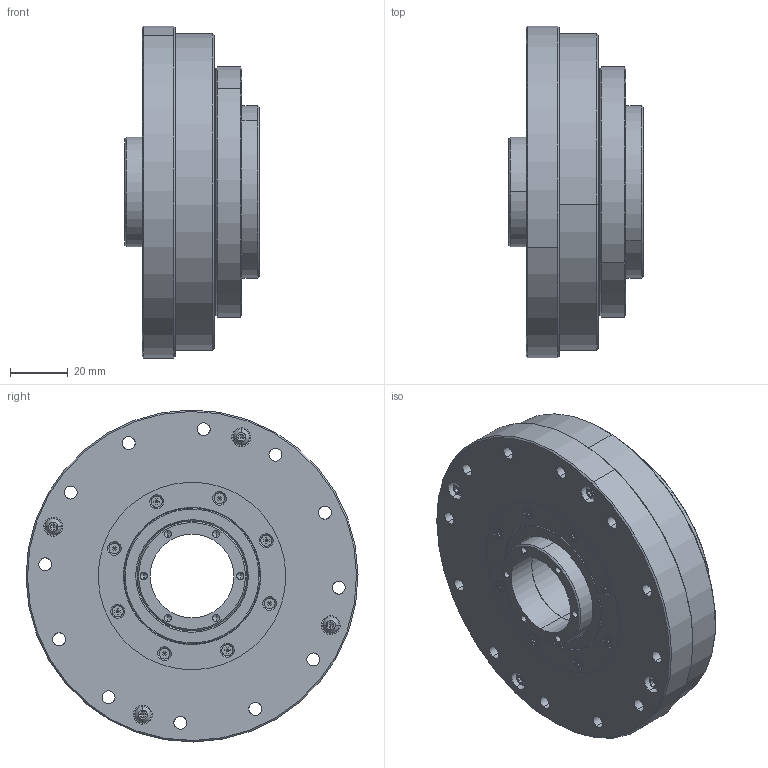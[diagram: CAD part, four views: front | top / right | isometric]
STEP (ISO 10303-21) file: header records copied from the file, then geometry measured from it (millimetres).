
FILE_DESCRIPTION (( 'STEP AP203' ), '1' );
FILE_NAME ('LHD-25-XXX-C-III.STEP', '2016-08-27T01:07:49', ( 'Windows 蚚誧' ), ( 'Users' ), 'SwSTEP 2.0', 'SolidWorks 2013', '' );
FILE_SCHEMA (( 'CONFIG_CONTROL_DESIGN' ));
Length unit declared in the file: millimetre
Products named in the file (20): LHD-25-XXX-P04-III; 坋趼羞麥芛蹟隊M2 x 4_ISO 7046-1 - M2 x 4 - Z --- 4N; RZC-25悵厥殤; LHD-25-XXX-P02-III; 15Z-38475; 柔性轴承RZC-25; 15Z-84945; DB-25-III-2; 囀鞠褒攫芛蹟隊M3X8_GB_SOCKET_TYPE7 M3X6-N; 6808zz; 内六角圆柱头螺钉M3 x 6_内六角圆柱头螺钉M3 x 6; DB-25-III-1; 内六角圆柱头螺钉M3 x 12_内六角圆柱头螺钉M3 x 12; LHD-25-XXX-P08-III; LHD-25-XXX-C-III; LHD-25-XXX-P06-III; LHD-25-XXX-P03-III; LHD-25-XXX-P01-III; LHD-25-XXX-P07-III; RZC-25内外圈+钢球
Assembly tree (41 placements, depth 3):
  LHD-25-XXX-C-III
    LHD-25-XXX-P03-III
    柔性轴承RZC-25
      RZC-25内外圈+钢球
      RZC-25悵厥殤
    DB-25-III-2
    6808zz  x2
    DB-25-III-1
    LHD-25-XXX-P08-III
    LHD-25-XXX-P06-III
    LHD-25-XXX-P01-III
    LHD-25-XXX-P04-III
    LHD-25-XXX-P02-III
    LHD-25-XXX-P07-III
    坋趼羞麥芛蹟隊M2 x 4_ISO 7046-1 - M2 x 4 - Z --- 4N  x8
    15Z-38475  x2
    15Z-84945
    囀鞠褒攫芛蹟隊M3X8_GB_SOCKET_TYPE7 M3X6-N  x4
    内六角圆柱头螺钉M3 x 6_内六角圆柱头螺钉M3 x 6  x6
    内六角圆柱头螺钉M3 x 12_内六角圆柱头螺钉M3 x 12  x6
Bounding box: 46.5 x 115 x 115 mm (x, y, z)
Volume: 252596.5 mm3; surface area: 198805.6 mm2
Topology: 114 solids, 114 shells, 1912 faces, 4585 edges, 2781 vertices
Faces by surface type: cylinder 682, plane 570, cone 360, torus 152, sphere 146, bspline 2
Entity records: 36960 total; most frequent: DIRECTION 6777, CARTESIAN_POINT 5649, ORIENTED_EDGE 5284, AXIS2_PLACEMENT_3D 2909, EDGE_CURVE 2642, VERTEX_POINT 1697, CIRCLE 1666, EDGE_LOOP 1575
